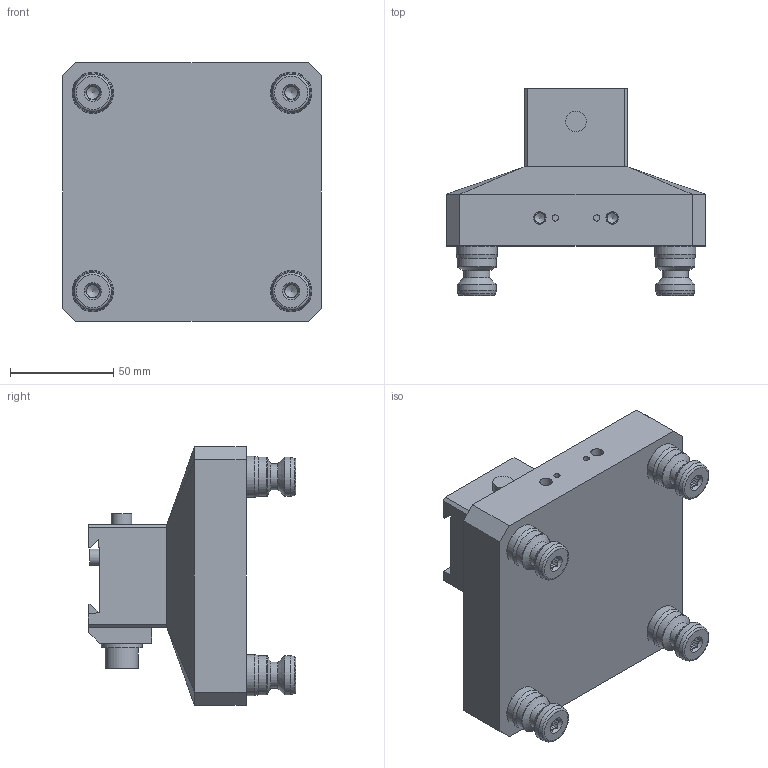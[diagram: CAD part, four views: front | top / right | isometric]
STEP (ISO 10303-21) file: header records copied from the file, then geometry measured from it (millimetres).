
FILE_DESCRIPTION (( 'STEP AP214' ), '1' );
FILE_NAME ('A96-DM50_WEBSITE.STEP', '2025-08-11T13:23:50', ( '' ), ( '' ), 'SwSTEP 2.0', 'SolidWorks 2025', '' );
FILE_SCHEMA (( 'AUTOMOTIVE_DESIGN' ));
Length unit declared in the file: millimetre
Products named in the file (14): D_A96-DM50-1_WEBSITE; D_HW.76248_WEBSITE_HW.76248; D_LP8_WEBSITE_LP8; D_DM50_WEBSITE; A96-DM50_WEBSITE; D_M10-1.5 X 25mm.Set Screw_WEBSITE; D_CDM375M_WEBSITE_MILL OP2; D_HW.M10.FW_WEBSITE; D_SLD375_WEBSITE_SLD375; D_PS20F_WEBSITE_HARD TURN; D_HW.LC045G02M_WEBSITE_HW.LC045G02M; D_DM50-1_WEBSITE_METRIC UPDATED; D_PS20F_WEBSITE; D_HW.76332_WEBSITE_HW.76332
Assembly tree (19 placements, depth 3):
  A96-DM50_WEBSITE
    D_A96-DM50-1_WEBSITE
    D_DM50_WEBSITE
      D_DM50-1_WEBSITE_METRIC UPDATED
      D_CDM375M_WEBSITE_MILL OP2
      D_SLD375_WEBSITE_SLD375
      D_HW.76332_WEBSITE_HW.76332
      D_LP8_WEBSITE_LP8  x3
      D_HW.LC045G02M_WEBSITE_HW.LC045G02M
      D_HW.M10.FW_WEBSITE
      D_HW.76248_WEBSITE_HW.76248  x2
    D_PS20F_WEBSITE  x4
      D_PS20F_WEBSITE_HARD TURN
      D_M10-1.5 X 25mm.Set Screw_WEBSITE
Bounding box: 125 x 100.4 x 125 mm (x, y, z)
Volume: 606863.9 mm3; surface area: 98137.3 mm2
Topology: 20 solids, 20 shells, 503 faces, 1084 edges, 660 vertices
Faces by surface type: plane 283, cone 103, cylinder 89, torus 24, bspline 4
Full cylindrical faces by diameter (mm): 3.03 x2, 4.623 x2, 5 x5, 5.774 x4, 6 x2, 6.147 x4, 6.8 x2, 8 x5, 8.014 x3, 8.031 x2, 8.5 x11, 10 x9, 10.312 x2, 10.9 x1, 12.497 x4, 12.7 x1, 13 x2, 13.8 x2, 15.867 x1, 15.875 x1, 15.913 x2, 15.992 x4, 16 x1, 16.02 x4, 19.012 x8, 19.95 x1, 19.972 x4
Entity records: 8734 total; most frequent: CARTESIAN_POINT 2732, DIRECTION 1076, ORIENTED_EDGE 830, AXIS2_PLACEMENT_3D 429, EDGE_CURVE 415, EDGE_LOOP 378, FACE_OUTER_BOUND 312, VERTEX_POINT 299
